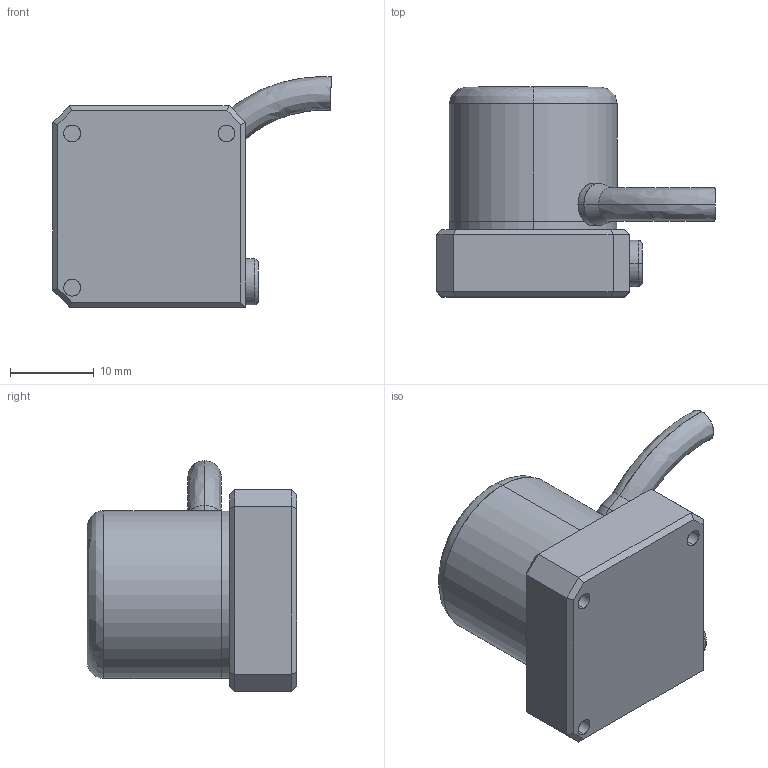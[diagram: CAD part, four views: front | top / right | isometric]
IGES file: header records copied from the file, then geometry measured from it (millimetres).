
Start section: SolidWorks IGES file using analytic representation for surfaces
Bounding box: 33.18 x 25 x 27.43 mm (x, y, z)
Surface area: 3140.6 mm2 (no closed solid volume)
Topology: 0 solids, 0 shells, 56 faces, 674 edges, 674 vertices
Faces by surface type: bspline 38, revolution 18
